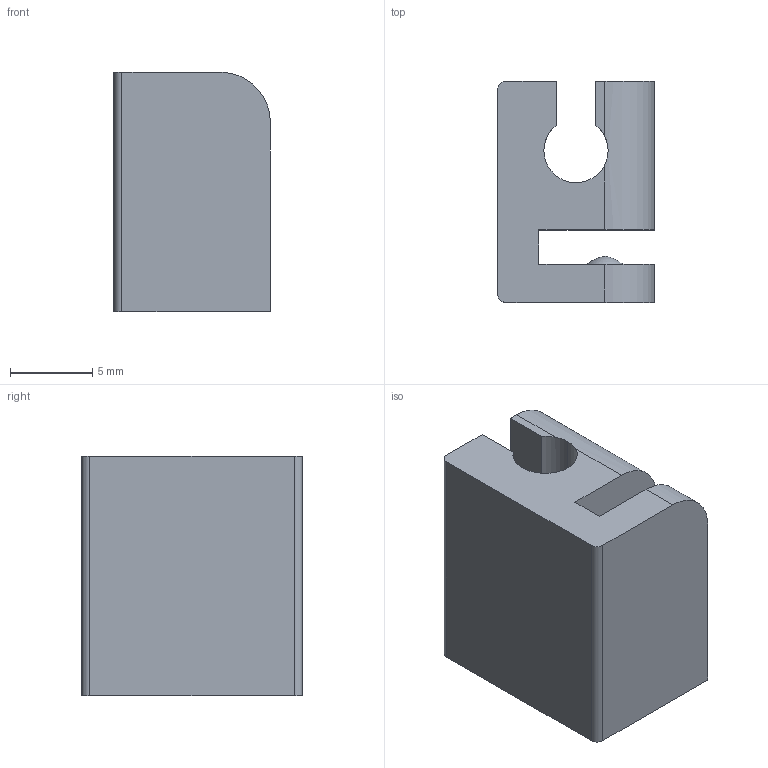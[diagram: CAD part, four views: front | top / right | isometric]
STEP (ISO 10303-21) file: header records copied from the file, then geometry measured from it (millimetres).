
FILE_DESCRIPTION (( 'STEP AP214' ), '1' );
FILE_NAME ('Traegerteil_medium.STEP', '2024-02-03T08:18:08', ( 'Lenovo' ), ( '' ), 'SwSTEP 2.0', 'SolidWorks 2019', '' );
FILE_SCHEMA (( 'AUTOMOTIVE_DESIGN' ));
Length unit declared in the file: millimetre
Products named in the file (1): Traegerteil_medium
Bounding box: 9.5 x 13.4 x 14.5 mm (x, y, z)
Volume: 1354.1 mm3; surface area: 1211.5 mm2
Topology: 1 solids, 1 shells, 23 faces, 63 edges, 41 vertices
Faces by surface type: plane 14, cylinder 7, torus 2
Entity records: 759 total; most frequent: CARTESIAN_POINT 134, DIRECTION 125, ORIENTED_EDGE 122, EDGE_CURVE 61, AXIS2_PLACEMENT_3D 42, VECTOR 41, LINE 41, VERTEX_POINT 41
